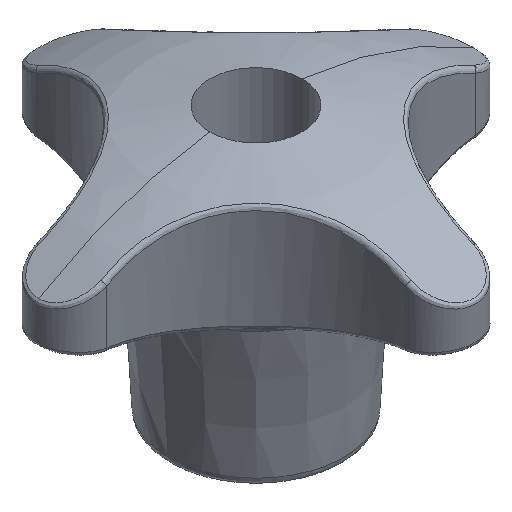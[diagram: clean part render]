
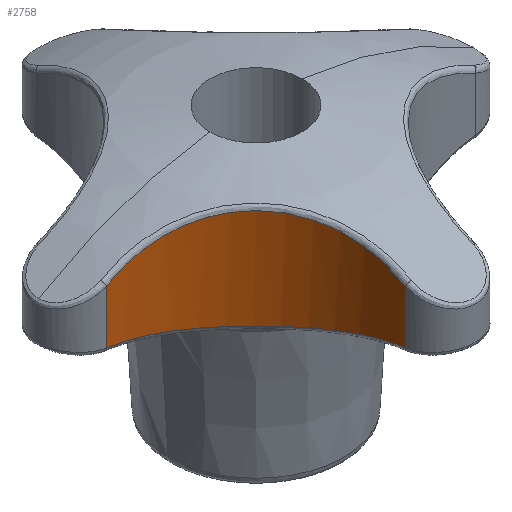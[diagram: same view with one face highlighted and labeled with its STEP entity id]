
A CAD part, isometric view. The second image highlights one B-rep face of the part: STEP entity #2758.
In plain terms, the highlighted cylindrical face has radius 16.031 mm (diameter 32.062 mm), a partial arc.
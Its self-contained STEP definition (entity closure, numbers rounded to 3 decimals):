
#2728 = VERTEX_POINT ( 'NONE', #4296 ) ;
#2758 = ADVANCED_FACE ( 'NONE', ( #4758 ), #4753, .F. ) ;
#2759 = EDGE_CURVE ( 'NONE', #2799, #2784, #4747, .T. ) ;
#2760 = EDGE_CURVE ( 'NONE', #2770, #2728, #4800, .T. ) ;
#2764 = ORIENTED_EDGE ( 'NONE', *, *, #2781, .F. ) ;
#2765 = ORIENTED_EDGE ( 'NONE', *, *, #2760, .T. ) ;
#2770 = VERTEX_POINT ( 'NONE', #4860 ) ;
#2777 = ORIENTED_EDGE ( 'NONE', *, *, #2787, .T. ) ;
#2779 = ORIENTED_EDGE ( 'NONE', *, *, #2759, .T. ) ;
#2781 = EDGE_CURVE ( 'NONE', #2770, #2784, #4773, .T. ) ;
#2782 = EDGE_LOOP ( 'NONE', ( #2777, #2779, #2764, #2765 ) ) ;
#2784 = VERTEX_POINT ( 'NONE', #4869 ) ;
#2787 = EDGE_CURVE ( 'NONE', #2728, #2799, #4871, .T. ) ;
#2799 = VERTEX_POINT ( 'NONE', #4906 ) ;
#4296 = CARTESIAN_POINT ( 'NONE',  ( -21., -4., 10.354 ) ) ;
#4740 = CARTESIAN_POINT ( 'NONE',  ( -15.433, -4.623, 3.301 ) ) ;
#4741 = CARTESIAN_POINT ( 'NONE',  ( -16.531, -4.338, 3.482 ) ) ;
#4742 = CARTESIAN_POINT ( 'NONE',  ( -17.083, -4.226, 3.575 ) ) ;
#4744 = CARTESIAN_POINT ( 'NONE',  ( -18.747, -3.978, 3.862 ) ) ;
#4745 = CARTESIAN_POINT ( 'NONE',  ( -19.868, -3.929, 4.062 ) ) ;
#4746 = CARTESIAN_POINT ( 'NONE',  ( -21., -4., 4.267 ) ) ;
#4747 = B_SPLINE_CURVE_WITH_KNOTS ( 'NONE', 3,
 ( #4746, #4745, #4744, #4742, #4741, #4740, #4794, #4793, #4792, #4791, #4790, #4789, #4788, #4787, #4786, #4785, #4784, #4783, #4782, #4781, #4780, #4779, #4778, #4777, #4776, #4775, #4774 ),
 .UNSPECIFIED., .F., .F.,
 ( 4, 2, 2, 2, 2, 2, 1, 2, 2, 2, 2, 2, 2, 4 ),
 ( 0., 0.003, 0.005, 0.007, 0.01, 0.012, 0.014, 0.015, 0.017, 0.02, 0.022, 0.024, 0.026, 0.027 ),
 .UNSPECIFIED. ) ;
#4749 = DIRECTION ( 'NONE',  ( -1., 0., 0. ) ) ;
#4750 = AXIS2_PLACEMENT_3D ( 'NONE', #4760, #4759, #4749 ) ;
#4753 = CYLINDRICAL_SURFACE ( 'NONE', #4750, 16.031 ) ;
#4758 = FACE_OUTER_BOUND ( 'NONE', #2782, .T. ) ;
#4759 = DIRECTION ( 'NONE',  ( 0., 0., -1. ) ) ;
#4760 = CARTESIAN_POINT ( 'NONE',  ( -20., -20., 16. ) ) ;
#4770 = CARTESIAN_POINT ( 'NONE',  ( -4., -21., 10.354 ) ) ;
#4772 = CARTESIAN_POINT ( 'NONE',  ( -4., -21., 16. ) ) ;
#4773 = LINE ( 'NONE', #4772, #4868 ) ;
#4774 = CARTESIAN_POINT ( 'NONE',  ( -4., -21., 4.267 ) ) ;
#4775 = CARTESIAN_POINT ( 'NONE',  ( -3.965, -20.434, 4.164 ) ) ;
#4776 = CARTESIAN_POINT ( 'NONE',  ( -3.959, -19.865, 4.062 ) ) ;
#4777 = CARTESIAN_POINT ( 'NONE',  ( -4.009, -18.739, 3.862 ) ) ;
#4778 = CARTESIAN_POINT ( 'NONE',  ( -4.063, -18.18, 3.764 ) ) ;
#4779 = CARTESIAN_POINT ( 'NONE',  ( -4.229, -17.07, 3.573 ) ) ;
#4780 = CARTESIAN_POINT ( 'NONE',  ( -4.341, -16.52, 3.48 ) ) ;
#4781 = CARTESIAN_POINT ( 'NONE',  ( -4.625, -15.426, 3.299 ) ) ;
#4782 = CARTESIAN_POINT ( 'NONE',  ( -4.798, -14.88, 3.212 ) ) ;
#4783 = CARTESIAN_POINT ( 'NONE',  ( -5.398, -13.287, 2.97 ) ) ;
#4784 = CARTESIAN_POINT ( 'NONE',  ( -5.905, -12.277, 2.831 ) ) ;
#4785 = CARTESIAN_POINT ( 'NONE',  ( -6.833, -10.837, 2.684 ) ) ;
#4786 = CARTESIAN_POINT ( 'NONE',  ( -7.172, -10.368, 2.645 ) ) ;
#4787 = CARTESIAN_POINT ( 'NONE',  ( -7.89, -9.48, 2.593 ) ) ;
#4788 = CARTESIAN_POINT ( 'NONE',  ( -8.651, -8.635, 2.567 ) ) ;
#4789 = CARTESIAN_POINT ( 'NONE',  ( -9.497, -7.875, 2.594 ) ) ;
#4790 = CARTESIAN_POINT ( 'NONE',  ( -10.386, -7.159, 2.646 ) ) ;
#4791 = CARTESIAN_POINT ( 'NONE',  ( -10.855, -6.821, 2.685 ) ) ;
#4792 = CARTESIAN_POINT ( 'NONE',  ( -12.295, -5.896, 2.834 ) ) ;
#4793 = CARTESIAN_POINT ( 'NONE',  ( -13.303, -5.391, 2.972 ) ) ;
#4794 = CARTESIAN_POINT ( 'NONE',  ( -14.889, -4.795, 3.214 ) ) ;
#4795 = CARTESIAN_POINT ( 'NONE',  ( -4.57, -15.613, 12.66 ) ) ;
#4796 = CARTESIAN_POINT ( 'NONE',  ( -4.3, -16.708, 12.273 ) ) ;
#4797 = CARTESIAN_POINT ( 'NONE',  ( -4.197, -17.253, 12.065 ) ) ;
#4798 = CARTESIAN_POINT ( 'NONE',  ( -3.971, -18.876, 11.401 ) ) ;
#4799 = CARTESIAN_POINT ( 'NONE',  ( -3.934, -19.945, 10.905 ) ) ;
#4800 = B_SPLINE_CURVE_WITH_KNOTS ( 'NONE', 3,
 ( #4770, #4799, #4798, #4797, #4796, #4795, #4838, #4837, #4836, #4835, #4834, #4833, #4832, #4831, #4830, #4829, #4828, #4827, #4826, #4825, #4824, #4823, #4822, #4821, #4820, #4819, #4818, #4817, #4816, #4815 ),
 .UNSPECIFIED., .F., .F.,
 ( 4, 2, 2, 2, 2, 2, 2, 2, 2, 2, 2, 2, 2, 2, 4 ),
 ( 0., 0.004, 0.005, 0.007, 0.011, 0.011, 0.012, 0.014, 0.016, 0.018, 0.019, 0.021, 0.025, 0.026, 0.028 ),
 .UNSPECIFIED. ) ;
#4815 = CARTESIAN_POINT ( 'NONE',  ( -21., -4., 10.354 ) ) ;
#4816 = CARTESIAN_POINT ( 'NONE',  ( -20.472, -3.967, 10.63 ) ) ;
#4817 = CARTESIAN_POINT ( 'NONE',  ( -19.938, -3.96, 10.893 ) ) ;
#4818 = CARTESIAN_POINT ( 'NONE',  ( -18.862, -4., 11.393 ) ) ;
#4819 = CARTESIAN_POINT ( 'NONE',  ( -18.317, -4.048, 11.631 ) ) ;
#4820 = CARTESIAN_POINT ( 'NONE',  ( -16.676, -4.278, 12.301 ) ) ;
#4821 = CARTESIAN_POINT ( 'NONE',  ( -15.591, -4.545, 12.683 ) ) ;
#4822 = CARTESIAN_POINT ( 'NONE',  ( -13.98, -5.131, 13.158 ) ) ;
#4823 = CARTESIAN_POINT ( 'NONE',  ( -13.444, -5.359, 13.301 ) ) ;
#4824 = CARTESIAN_POINT ( 'NONE',  ( -12.403, -5.871, 13.544 ) ) ;
#4825 = CARTESIAN_POINT ( 'NONE',  ( -11.896, -6.156, 13.646 ) ) ;
#4826 = CARTESIAN_POINT ( 'NONE',  ( -10.91, -6.782, 13.81 ) ) ;
#4827 = CARTESIAN_POINT ( 'NONE',  ( -10.431, -7.124, 13.873 ) ) ;
#4828 = CARTESIAN_POINT ( 'NONE',  ( -9.502, -7.869, 13.957 ) ) ;
#4829 = CARTESIAN_POINT ( 'NONE',  ( -9.06, -8.267, 13.977 ) ) ;
#4830 = CARTESIAN_POINT ( 'NONE',  ( -8.228, -9.102, 13.976 ) ) ;
#4831 = CARTESIAN_POINT ( 'NONE',  ( -7.837, -9.54, 13.954 ) ) ;
#4832 = CARTESIAN_POINT ( 'NONE',  ( -7.287, -10.229, 13.891 ) ) ;
#4833 = CARTESIAN_POINT ( 'NONE',  ( -7.11, -10.464, 13.864 ) ) ;
#4834 = CARTESIAN_POINT ( 'NONE',  ( -6.768, -10.945, 13.801 ) ) ;
#4835 = CARTESIAN_POINT ( 'NONE',  ( -6.602, -11.192, 13.764 ) ) ;
#4836 = CARTESIAN_POINT ( 'NONE',  ( -5.815, -12.438, 13.554 ) ) ;
#4837 = CARTESIAN_POINT ( 'NONE',  ( -5.314, -13.472, 13.309 ) ) ;
#4838 = CARTESIAN_POINT ( 'NONE',  ( -4.735, -15.071, 12.836 ) ) ;
#4860 = CARTESIAN_POINT ( 'NONE',  ( -4., -21., 10.354 ) ) ;
#4867 = DIRECTION ( 'NONE',  ( 0., 0., -1. ) ) ;
#4868 = VECTOR ( 'NONE', #4867, 1000. ) ;
#4869 = CARTESIAN_POINT ( 'NONE',  ( -4., -21., 4.267 ) ) ;
#4870 = CARTESIAN_POINT ( 'NONE',  ( -21., -4., 16. ) ) ;
#4871 = LINE ( 'NONE', #4870, #4930 ) ;
#4906 = CARTESIAN_POINT ( 'NONE',  ( -21., -4., 4.267 ) ) ;
#4929 = DIRECTION ( 'NONE',  ( 0., 0., -1. ) ) ;
#4930 = VECTOR ( 'NONE', #4929, 1000. ) ;
